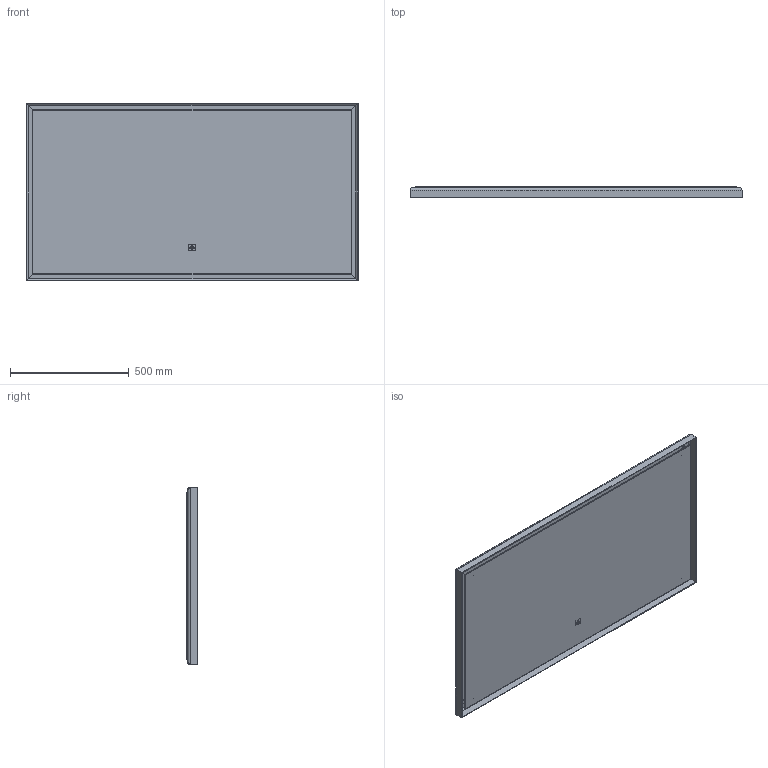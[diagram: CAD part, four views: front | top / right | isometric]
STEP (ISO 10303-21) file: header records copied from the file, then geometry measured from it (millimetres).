
FILE_DESCRIPTION(/* description */ (''),/* implementation_level */ '2;1');
FILE_NAME(/* name */ 'K:\ACAD\PERSPECT\Freisteller\V&B\Subway 3.0\A46314YY.stp',/* time_stamp */ '2020-07-28T15:26:15+02:00',/* author */ ('StegeR'),/* organization */ (''),/* preprocessor_version */ 'ST-DEVELOPER v16.1',/* originating_system */ 'Autodesk Inventor 2016',/* authorisation */ '');
FILE_SCHEMA (('AUTOMOTIVE_DESIGN { 1 0 10303 214 3 1 1 }'));
Length unit declared in the file: millimetre
Products named in the file (1): A46314YY
Bounding box: 1400 x 45.5 x 750 mm (x, y, z)
Volume: 6410859.7 mm3; surface area: 3545465.1 mm2
Topology: 35 solids, 35 shells, 802 faces, 2041 edges, 1358 vertices
Faces by surface type: plane 594, cylinder 200, bspline 8
Full cylindrical faces by diameter (mm): 0.488 x2, 4.4 x12, 5.8 x24
Entity records: 24117 total; most frequent: CARTESIAN_POINT 4308, ORIENTED_EDGE 4006, DIRECTION 4005, EDGE_CURVE 2003, LINE 1575, VECTOR 1575, VERTEX_POINT 1358, AXIS2_PLACEMENT_3D 1215
